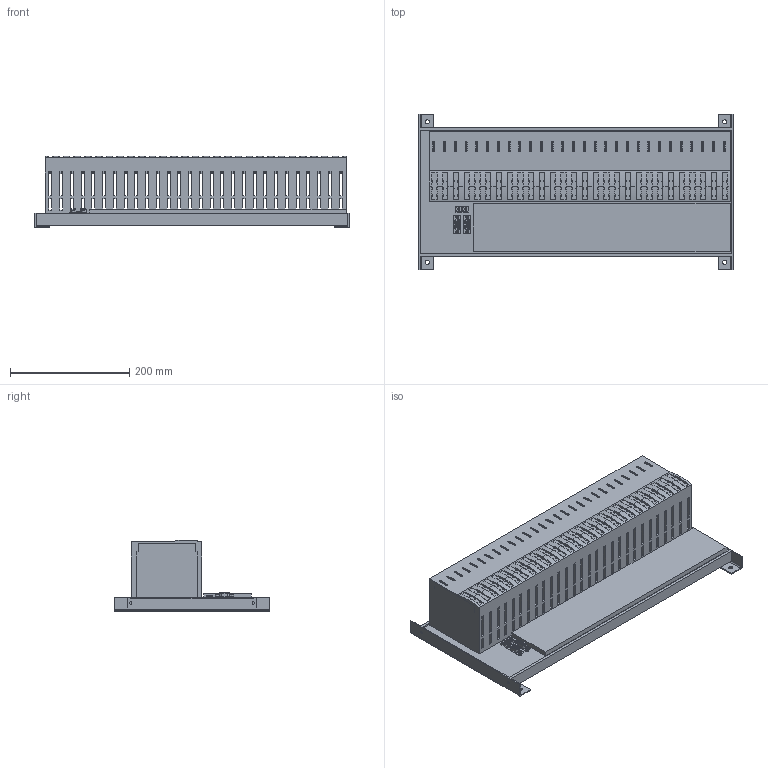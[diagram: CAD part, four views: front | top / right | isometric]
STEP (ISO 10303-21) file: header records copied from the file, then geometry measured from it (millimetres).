
FILE_DESCRIPTION (( 'STEP AP203' ), '1' );
FILE_NAME ('MT24.step', '2013-04-25T18:38:50', ( 'Turck User' ), ( '' ), 'SwSTEP 2.0', 'SolidWorks 2012', '' );
FILE_SCHEMA (( 'CONFIG_CONTROL_DESIGN' ));
Products named in the file (1): MT24
Bounding box: 526 x 260 x 120.5 mm (x, y, z)
Volume: 3287565.1 mm3; surface area: 807602.4 mm2
Topology: 1 solids, 1 shells, 3067 faces, 8304 edges, 5494 vertices
Faces by surface type: plane 2161, cylinder 566, torus 288, cone 52
Entity records: 99055 total; most frequent: CARTESIAN_POINT 19386, ORIENTED_EDGE 16608, DIRECTION 16428, EDGE_CURVE 8304, LINE 5980, VECTOR 5980, VERTEX_POINT 5494, AXIS2_PLACEMENT_3D 5224
